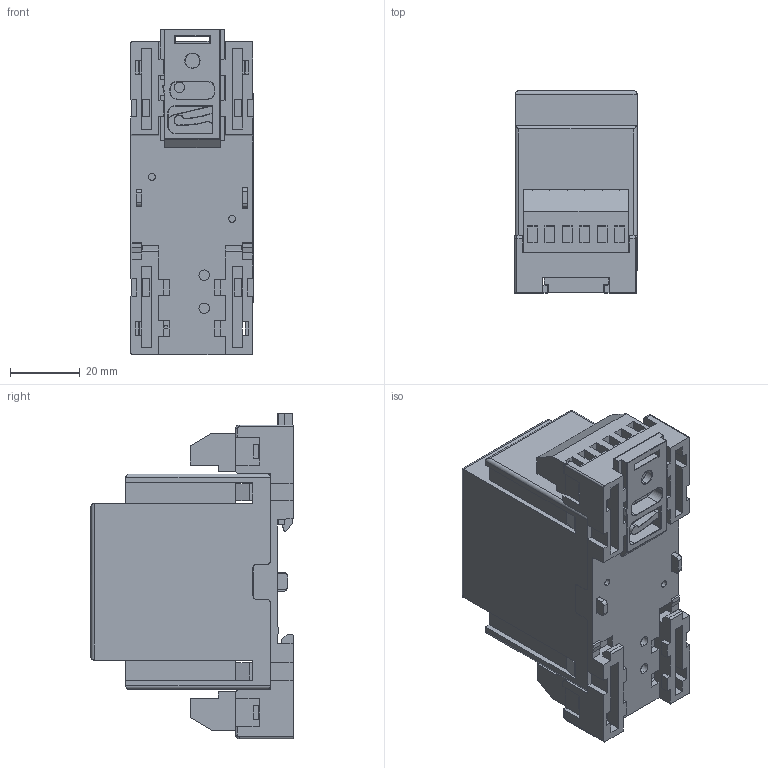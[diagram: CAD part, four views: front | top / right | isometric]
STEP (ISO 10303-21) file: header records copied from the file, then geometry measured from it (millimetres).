
FILE_DESCRIPTION (( 'STEP AP214' ), '1' );
FILE_NAME ('12100-1900-01.STEP', '2019-01-23T06:23:49', ( '' ), ( '' ), 'SwSTEP 2.0', 'SolidWorks 2018', '' );
FILE_SCHEMA (( 'AUTOMOTIVE_DESIGN' ));
Length unit declared in the file: millimetre
Products named in the file (10): V-Riegel_3D^12100-1900-01; V2_Unterteil^12100-1900-01; Typenschild 12100-1200-05_MU100W^12100-1900-01; 12100-1900-01; Tasterknopf^12100-1900-01; V2_Leiterplatte^12100-1900-01; V2_Oberteil^12100-1900-01; Klemme 31071103^12100-1900-01; V2_Frontplatte^12100-1900-01; Klemme 31071106^12100-1900-01
Assembly tree (10 placements, depth 2):
  12100-1900-01
    V2_Unterteil^12100-1900-01
    V2_Leiterplatte^12100-1900-01
    V2_Oberteil^12100-1900-01
    V2_Frontplatte^12100-1900-01
    V-Riegel_3D^12100-1900-01
    Klemme 31071106^12100-1900-01
    Klemme 31071103^12100-1900-01
    Typenschild 12100-1200-05_MU100W^12100-1900-01
    Tasterknopf^12100-1900-01  x2
Bounding box: 35.03 x 58.03 x 93.35 mm (x, y, z)
Volume: 41604 mm3; surface area: 49965.5 mm2
Topology: 10 solids, 240 shells, 1273 faces, 4730 edges, 3692 vertices
Faces by surface type: plane 1002, cylinder 209, torus 40, sphere 14, bspline 8
Entity records: 54051 total; most frequent: CARTESIAN_POINT 13529, ORIENTED_EDGE 7575, DIRECTION 7204, EDGE_CURVE 4706, LINE 3776, VECTOR 3776, VERTEX_POINT 3686, AXIS2_PLACEMENT_3D 1714
